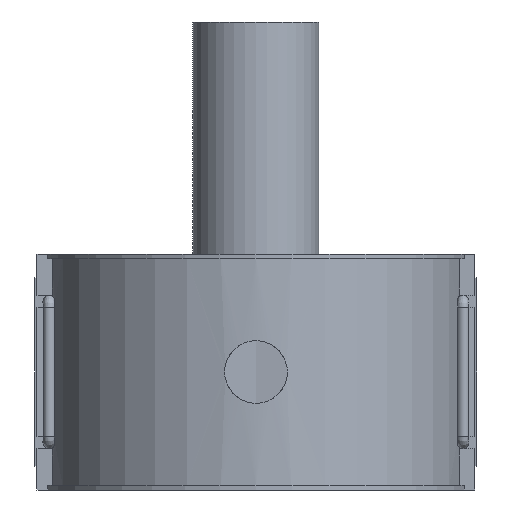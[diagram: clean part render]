
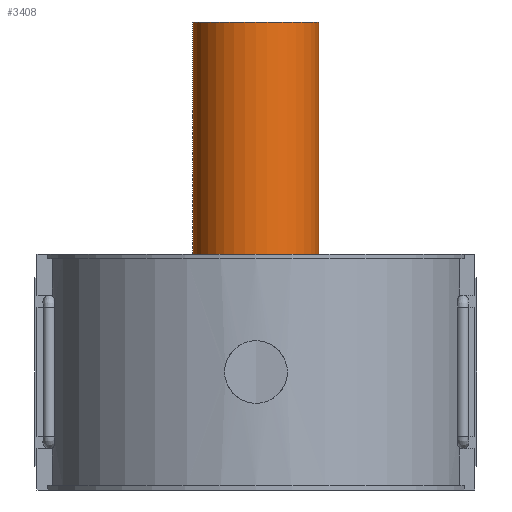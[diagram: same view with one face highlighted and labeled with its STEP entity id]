
A CAD part, front view. The second image highlights one B-rep face of the part: STEP entity #3408.
In plain terms, the highlighted cylindrical face has radius 31.5 mm (diameter 63 mm), a full revolution.
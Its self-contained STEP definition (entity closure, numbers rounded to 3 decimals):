
#309=CIRCLE('',#3737,31.5);
#310=CIRCLE('',#3738,31.5);
#311=CIRCLE('',#3739,31.5);
#312=CIRCLE('',#3740,31.5);
#512=FACE_OUTER_BOUND('',#732,.T.);
#732=EDGE_LOOP('',(#3145,#3146,#3147,#3148,#3149,#3150));
#1032=LINE('',#7020,#1328);
#1328=VECTOR('',#4654,31.5);
#1696=VERTEX_POINT('',#7015);
#1697=VERTEX_POINT('',#7016);
#1698=VERTEX_POINT('',#7019);
#1699=VERTEX_POINT('',#7021);
#2181=EDGE_CURVE('',#1696,#1697,#309,.T.);
#2182=EDGE_CURVE('',#1697,#1696,#310,.T.);
#2183=EDGE_CURVE('',#1697,#1698,#1032,.T.);
#2184=EDGE_CURVE('',#1698,#1699,#311,.T.);
#2185=EDGE_CURVE('',#1699,#1698,#312,.T.);
#3145=ORIENTED_EDGE('',*,*,#2181,.F.);
#3146=ORIENTED_EDGE('',*,*,#2182,.F.);
#3147=ORIENTED_EDGE('',*,*,#2183,.T.);
#3148=ORIENTED_EDGE('',*,*,#2184,.T.);
#3149=ORIENTED_EDGE('',*,*,#2185,.T.);
#3150=ORIENTED_EDGE('',*,*,#2183,.F.);
#3216=CYLINDRICAL_SURFACE('',#3736,31.5);
#3408=ADVANCED_FACE('',(#512),#3216,.T.);
#3736=AXIS2_PLACEMENT_3D('',#7014,#4648,#4649);
#3737=AXIS2_PLACEMENT_3D('',#7017,#4650,#4651);
#3738=AXIS2_PLACEMENT_3D('',#7018,#4652,#4653);
#3739=AXIS2_PLACEMENT_3D('',#7022,#4655,#4656);
#3740=AXIS2_PLACEMENT_3D('',#7023,#4657,#4658);
#4648=DIRECTION('center_axis',(0.,0.,1.));
#4649=DIRECTION('ref_axis',(0.,-1.,0.));
#4650=DIRECTION('center_axis',(0.,0.,1.));
#4651=DIRECTION('ref_axis',(1.,0.,0.));
#4652=DIRECTION('center_axis',(0.,0.,1.));
#4653=DIRECTION('ref_axis',(1.,0.,0.));
#4654=DIRECTION('',(0.,0.,-1.));
#4655=DIRECTION('center_axis',(0.,0.,1.));
#4656=DIRECTION('ref_axis',(1.,0.,0.));
#4657=DIRECTION('center_axis',(0.,0.,1.));
#4658=DIRECTION('ref_axis',(1.,0.,0.));
#7014=CARTESIAN_POINT('Origin',(0.,154.,87.5));
#7015=CARTESIAN_POINT('',(0.,122.5,175.));
#7016=CARTESIAN_POINT('',(0.,185.5,175.));
#7017=CARTESIAN_POINT('Origin',(0.,154.,175.));
#7018=CARTESIAN_POINT('Origin',(0.,154.,175.));
#7019=CARTESIAN_POINT('',(0.,185.5,0.));
#7020=CARTESIAN_POINT('',(0.,185.5,87.5));
#7021=CARTESIAN_POINT('',(0.,122.5,0.));
#7022=CARTESIAN_POINT('Origin',(0.,154.,0.));
#7023=CARTESIAN_POINT('Origin',(0.,154.,0.));
